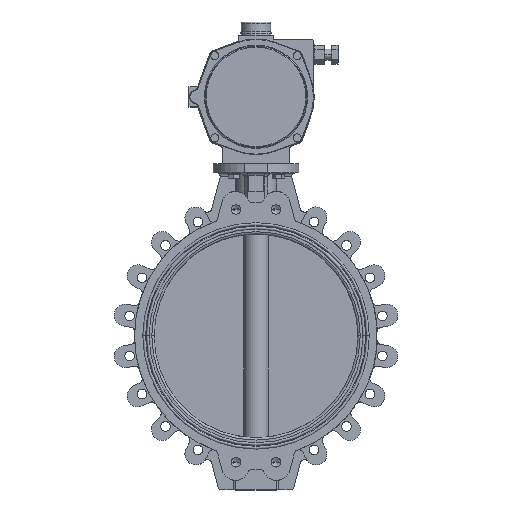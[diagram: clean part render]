
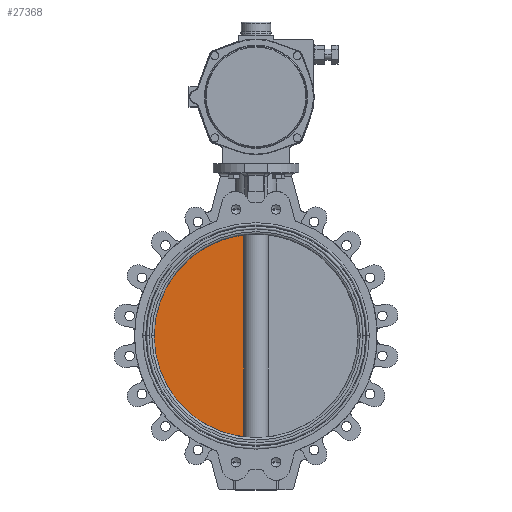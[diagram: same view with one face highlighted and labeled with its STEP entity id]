
A CAD part, top view. The second image highlights one B-rep face of the part: STEP entity #27368.
In plain terms, the highlighted planar face has unit normal (0, 0, 1).
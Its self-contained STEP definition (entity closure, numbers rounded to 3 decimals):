
#404 = CARTESIAN_POINT ( 'NONE',  ( -26.833, 418.501, 8. ) ) ;
#971 = CIRCLE ( 'NONE', #10306, 225. ) ;
#1864 = EDGE_CURVE ( 'NONE', #26765, #24954, #15367, .T. ) ;
#3326 = DIRECTION ( 'NONE',  ( 0., 0., -1. ) ) ;
#3360 = DIRECTION ( 'NONE',  ( -1., 0., 0. ) ) ;
#3633 = CARTESIAN_POINT ( 'NONE',  ( 0., 0., 8. ) ) ;
#4466 = ORIENTED_EDGE ( 'NONE', *, *, #18500, .F. ) ;
#5541 = VERTEX_POINT ( 'NONE', #19812 ) ;
#5552 = DIRECTION ( 'NONE',  ( -1., 0., 0. ) ) ;
#6666 = CARTESIAN_POINT ( 'NONE',  ( -26.833, -223.394, 8. ) ) ;
#7041 = FACE_OUTER_BOUND ( 'NONE', #9124, .T. ) ;
#7437 = ORIENTED_EDGE ( 'NONE', *, *, #1864, .F. ) ;
#8698 = DIRECTION ( 'NONE',  ( 0., 0., -1. ) ) ;
#9124 = EDGE_LOOP ( 'NONE', ( #16628, #7437, #4466 ) ) ;
#10306 = AXIS2_PLACEMENT_3D ( 'NONE', #22303, #3326, #5552 ) ;
#12932 = AXIS2_PLACEMENT_3D ( 'NONE', #3633, #22608, #3360 ) ;
#13021 = DIRECTION ( 'NONE',  ( 0., -1., 0. ) ) ;
#13125 = CARTESIAN_POINT ( 'NONE',  ( -227., 418.501, 8. ) ) ;
#15367 = LINE ( 'NONE', #404, #15496 ) ;
#15496 = VECTOR ( 'NONE', #13021, 1000. ) ;
#16628 = ORIENTED_EDGE ( 'NONE', *, *, #26859, .F. ) ;
#18500 = EDGE_CURVE ( 'NONE', #5541, #26765, #22649, .T. ) ;
#19444 = CARTESIAN_POINT ( 'NONE',  ( -26.833, 223.394, 8. ) ) ;
#19812 = CARTESIAN_POINT ( 'NONE',  ( -225., 0., 8. ) ) ;
#21699 = DIRECTION ( 'NONE',  ( -1., 0., 0. ) ) ;
#22303 = CARTESIAN_POINT ( 'NONE',  ( 0., 0., 8. ) ) ;
#22608 = DIRECTION ( 'NONE',  ( 0., 0., -1. ) ) ;
#22649 = CIRCLE ( 'NONE', #12932, 225. ) ;
#23482 = PLANE ( 'NONE',  #26648 ) ;
#24954 = VERTEX_POINT ( 'NONE', #6666 ) ;
#26648 = AXIS2_PLACEMENT_3D ( 'NONE', #13125, #8698, #21699 ) ;
#26765 = VERTEX_POINT ( 'NONE', #19444 ) ;
#26859 = EDGE_CURVE ( 'NONE', #24954, #5541, #971, .T. ) ;
#27368 = ADVANCED_FACE ( 'NONE', ( #7041 ), #23482, .F. ) ;
